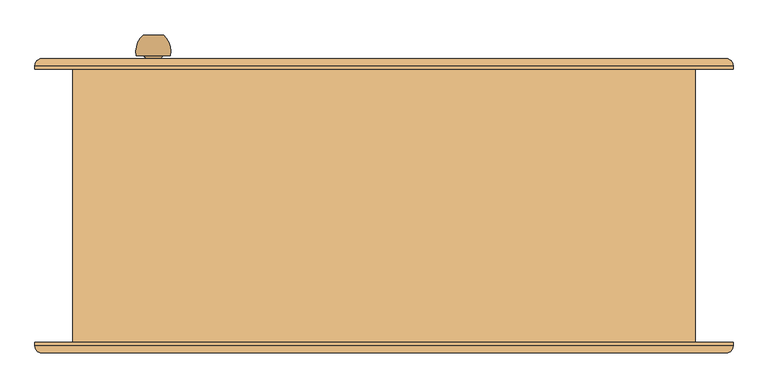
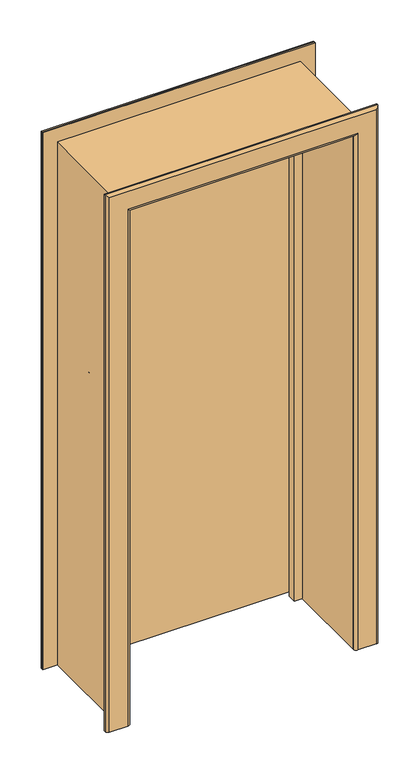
"""IFC4 building model written with IfcOpenShell, lengths in millimetres: door geometry, Внутренняя дверь 1-Навесная - 6629-88 : ДГ 21-9  ГОСТ 6629-88."""

from ifc_helpers import new_model, si_unit, point, frame, origin, place, context, project, spatial, polyline, circle_curve, ellipse_curve, trimmed, outline, extrude, faceted_brep, source, transform, mapped, element, save
from ifc_brep_helpers import plane_surface, cylinder_surface, revolved_surface, advanced_brep


def door_a652fb3b(model_context):
    return source(origin(), model_context, "Body", "SolidModel", [
        advanced_brep(
        [(-322.0, 250.0, 1100.0), (-337.0, 250.0, 1100.0), (-352.0, 250.0, 1100.0), (-362.0, 220.0, 1100.0), (-312.0, 220.0, 1100.0), (-355.0, 220.0, 1100.0), (-319.0, 220.0, 1100.0), (-347.0, 212.0, 1100.0), (-327.0, 212.0, 1100.0), (-347.0, 206.0, 1100.0), (-327.0, 206.0, 1100.0), (-367.0, 206.0, 1100.0), (-307.0, 206.0, 1100.0), (-367.0, 200.0, 1100.0), (-307.0, 200.0, 1100.0)],
        [
            (0, 1),
            (1, 2),
            (2, 0, circle_curve(frame((-337.0, 250.0, 1100.0), z_axis=(0.0, 1.0, 0.0), x_axis=(-1.0, 0.0, 0.0)), 15.0)),
            (0, 2, circle_curve(frame((-337.0, 250.0, 1100.0), z_axis=(0.0, 1.0, 0.0), x_axis=(-1.0, 0.0, 0.0)), 15.0)),
            (2, 3, circle_curve(frame((-327.3773735, 225.1257912, 1100.0), z_axis=(0.0, 0.0, 1.0), x_axis=(1.0, 0.0, 0.0)), 35.0)),
            (3, 4, circle_curve(frame((-337.0, 220.0, 1100.0), z_axis=(0.0, 1.0, 0.0), x_axis=(-1.0, 0.0, 0.0)), 25.0)),
            (4, 0, circle_curve(frame((-346.6226265, 225.1257912, 1100.0), z_axis=(0.0, 0.0, 1.0), x_axis=(-1.0, 0.0, 0.0)), 35.0)),
            (4, 3, circle_curve(frame((-337.0, 220.0, 1100.0), z_axis=(0.0, 1.0, 0.0), x_axis=(-1.0, 0.0, 0.0)), 25.0)),
            (3, 5),
            (5, 6, circle_curve(frame((-337.0, 220.0, 1100.0), z_axis=(0.0, 1.0, 0.0), x_axis=(-1.0, 0.0, 0.0)), 18.0)),
            (6, 4),
            (6, 5, circle_curve(frame((-337.0, 220.0, 1100.0), z_axis=(0.0, 1.0, 0.0), x_axis=(-1.0, 0.0, 0.0)), 18.0)),
            (5, 7, circle_curve(frame((-355.0, 212.0, 1100.0), z_axis=(0.0, 0.0, -1.0), x_axis=(1.0, 0.0, 0.0)), 8.0)),
            (7, 8, circle_curve(frame((-337.0, 212.0, 1100.0), z_axis=(0.0, 1.0, 0.0), x_axis=(-1.0, 0.0, 0.0)), 10.0)),
            (8, 6, circle_curve(frame((-319.0, 212.0, 1100.0), z_axis=(0.0, 0.0, -1.0), x_axis=(-1.0, 0.0, 0.0)), 8.0)),
            (8, 7, circle_curve(frame((-337.0, 212.0, 1100.0), z_axis=(0.0, 1.0, 0.0), x_axis=(-1.0, 0.0, 0.0)), 10.0)),
            (7, 9),
            (9, 10, circle_curve(frame((-337.0, 206.0, 1100.0), z_axis=(0.0, 1.0, 0.0), x_axis=(-1.0, 0.0, 0.0)), 10.0)),
            (10, 8),
            (10, 9, circle_curve(frame((-337.0, 206.0, 1100.0), z_axis=(0.0, 1.0, 0.0), x_axis=(-1.0, 0.0, 0.0)), 10.0)),
            (11, 12, circle_curve(frame((-337.0, 206.0, 1100.0), z_axis=(0.0, 1.0, 0.0), x_axis=(1.0, 0.0, 0.0)), 30.0)),
            (12, 11, circle_curve(frame((-337.0, 206.0, 1100.0), z_axis=(0.0, 1.0, 0.0), x_axis=(1.0, 0.0, 0.0)), 30.0)),
            (13, 14, circle_curve(frame((-337.0, 200.0, 1100.0), z_axis=(0.0, -1.0, 0.0), x_axis=(1.0, 0.0, 0.0)), 30.0)),
            (14, 13, circle_curve(frame((-337.0, 200.0, 1100.0), z_axis=(0.0, -1.0, 0.0), x_axis=(1.0, 0.0, 0.0)), 30.0)),
            (12, 14),
            (13, 11),
        ],
        [
            plane_surface(frame((-337.0, 250.0, 1100.0), z_axis=(0.0, 1.0, 0.0), x_axis=(-1.0, 0.0, 0.0))),
            revolved_surface(trimmed(ellipse_curve(frame((-327.3773735, 225.1257912, 1100.0), z_axis=(0.0, 0.0, 1.0), x_axis=(1.0, 0.0, 0.0)), 35.0, 35.0), [point((-352.0, 250.0, 1100.0))], [point((-362.0, 220.0, 1100.0))], True, "CARTESIAN"), (-337.0, 280.0, 1100.0), (0.0, -1.0, 0.0)),
            plane_surface(frame((-337.0, 220.0, 1100.0), z_axis=(0.0, -1.0, 0.0), x_axis=(-1.0, 0.0, 0.0))),
            revolved_surface(trimmed(ellipse_curve(frame((-355.0, 212.0, 1100.0), z_axis=(0.0, 0.0, -1.0), x_axis=(1.0, 0.0, 0.0)), 8.0, 8.0), [point((-355.0, 220.0, 1100.0))], [point((-347.0, 212.0, 1100.0))], True, "CARTESIAN"), (-337.0, 280.0, 1100.0), (0.0, -1.0, 0.0)),
            cylinder_surface(frame((-337.0, 280.0, 1100.0), z_axis=(0.0, -1.0, 0.0), x_axis=(-1.0, 0.0, 0.0)), 10.0),
            plane_surface(frame((-307.0, 206.0, 1100.0), z_axis=(0.0, 1.0, 0.0), x_axis=(0.0, 0.0, 1.0))),
            plane_surface(frame((-307.0, 200.0, 1100.0), z_axis=(0.0, -1.0, 0.0), x_axis=(0.0, 0.0, -1.0))),
            cylinder_surface(frame((-337.0, 200.0, 1100.0), z_axis=(0.0, 1.0, 0.0), x_axis=(1.0, 0.0, 0.0)), 30.0),
        ],
        [
            (0, [[1, 2, 3]]),
            (0, [[-1, 4, -2]]),
            (1, [[5, 6, 7, -3]]),
            (1, [[-7, 8, -5, -4]]),
            (2, [[9, 10, 11, -6]]),
            (2, [[-11, 12, -9, -8]]),
            (3, [[13, 14, 15, -10]]),
            (3, [[-15, 16, -13, -12]]),
            (4, [[17, 18, 19, -14]]),
            (4, [[-19, 20, -17, -16]]),
            (5, [[21, 22], [-20, -18]]),
            (6, [[23, 24]]),
            (7, [[25, -23, 26, -22]]),
            (7, [[-26, -24, -25, -21]]),
        ],
    ),
        advanced_brep(
        [(-352.0, 113.0, 1100.0), (-337.0, 113.0, 1100.0), (-322.0, 113.0, 1100.0), (-312.0, 143.0, 1100.0), (-362.0, 143.0, 1100.0), (-319.0, 143.0, 1100.0), (-355.0, 143.0, 1100.0), (-327.0, 151.0, 1100.0), (-347.0, 151.0, 1100.0), (-327.0, 157.0, 1100.0), (-347.0, 157.0, 1100.0), (-307.0, 157.0, 1100.0), (-367.0, 157.0, 1100.0), (-307.0, 163.0, 1100.0), (-367.0, 163.0, 1100.0)],
        [
            (0, 1),
            (1, 2),
            (2, 0, circle_curve(frame((-337.0, 113.0, 1100.0), z_axis=(0.0, -1.0, 0.0), x_axis=(1.0, 0.0, 0.0)), 15.0)),
            (0, 2, circle_curve(frame((-337.0, 113.0, 1100.0), z_axis=(0.0, -1.0, 0.0), x_axis=(1.0, 0.0, 0.0)), 15.0)),
            (2, 3, circle_curve(frame((-346.6226265, 137.8742088, 1100.0), z_axis=(0.0, 0.0, 1.0), x_axis=(-1.0, 0.0, 0.0)), 35.0)),
            (3, 4, circle_curve(frame((-337.0, 143.0, 1100.0), z_axis=(0.0, -1.0, 0.0), x_axis=(1.0, 0.0, 0.0)), 25.0)),
            (4, 0, circle_curve(frame((-327.3773735, 137.8742088, 1100.0), z_axis=(0.0, 0.0, 1.0), x_axis=(1.0, 0.0, 0.0)), 35.0)),
            (4, 3, circle_curve(frame((-337.0, 143.0, 1100.0), z_axis=(0.0, -1.0, 0.0), x_axis=(1.0, 0.0, 0.0)), 25.0)),
            (3, 5),
            (5, 6, circle_curve(frame((-337.0, 143.0, 1100.0), z_axis=(0.0, -1.0, 0.0), x_axis=(1.0, 0.0, 0.0)), 18.0)),
            (6, 4),
            (6, 5, circle_curve(frame((-337.0, 143.0, 1100.0), z_axis=(0.0, -1.0, 0.0), x_axis=(1.0, 0.0, 0.0)), 18.0)),
            (5, 7, circle_curve(frame((-319.0, 151.0, 1100.0), z_axis=(0.0, 0.0, -1.0), x_axis=(-1.0, 0.0, 0.0)), 8.0)),
            (7, 8, circle_curve(frame((-337.0, 151.0, 1100.0), z_axis=(0.0, -1.0, 0.0), x_axis=(1.0, 0.0, 0.0)), 10.0)),
            (8, 6, circle_curve(frame((-355.0, 151.0, 1100.0), z_axis=(0.0, 0.0, -1.0), x_axis=(1.0, 0.0, 0.0)), 8.0)),
            (8, 7, circle_curve(frame((-337.0, 151.0, 1100.0), z_axis=(0.0, -1.0, 0.0), x_axis=(1.0, 0.0, 0.0)), 10.0)),
            (7, 9),
            (9, 10, circle_curve(frame((-337.0, 157.0, 1100.0), z_axis=(0.0, -1.0, 0.0), x_axis=(1.0, 0.0, 0.0)), 10.0)),
            (10, 8),
            (10, 9, circle_curve(frame((-337.0, 157.0, 1100.0), z_axis=(0.0, -1.0, 0.0), x_axis=(1.0, 0.0, 0.0)), 10.0)),
            (11, 12, circle_curve(frame((-337.0, 157.0, 1100.0), z_axis=(0.0, -1.0, 0.0), x_axis=(-1.0, 0.0, 0.0)), 30.0)),
            (12, 11, circle_curve(frame((-337.0, 157.0, 1100.0), z_axis=(0.0, -1.0, 0.0), x_axis=(-1.0, 0.0, 0.0)), 30.0)),
            (13, 14, circle_curve(frame((-337.0, 163.0, 1100.0), z_axis=(0.0, 1.0, 0.0), x_axis=(-1.0, 0.0, 0.0)), 30.0)),
            (14, 13, circle_curve(frame((-337.0, 163.0, 1100.0), z_axis=(0.0, 1.0, 0.0), x_axis=(-1.0, 0.0, 0.0)), 30.0)),
            (12, 14),
            (13, 11),
        ],
        [
            plane_surface(frame((-337.0, 113.0, 1100.0), z_axis=(0.0, -1.0, 0.0), x_axis=(1.0, 0.0, 0.0))),
            revolved_surface(trimmed(ellipse_curve(frame((-346.6226265, 137.8742088, 1100.0), z_axis=(0.0, 0.0, 1.0), x_axis=(-1.0, 0.0, 0.0)), 35.0, 35.0), [point((-322.0, 113.0, 1100.0))], [point((-312.0, 143.0, 1100.0))], True, "CARTESIAN"), (-337.0, 83.0, 1100.0), (0.0, 1.0, 0.0)),
            plane_surface(frame((-337.0, 143.0, 1100.0), z_axis=(0.0, 1.0, 0.0), x_axis=(1.0, 0.0, 0.0))),
            revolved_surface(trimmed(ellipse_curve(frame((-319.0, 151.0, 1100.0), z_axis=(0.0, 0.0, -1.0), x_axis=(-1.0, 0.0, 0.0)), 8.0, 8.0), [point((-319.0, 143.0, 1100.0))], [point((-327.0, 151.0, 1100.0))], True, "CARTESIAN"), (-337.0, 83.0, 1100.0), (0.0, 1.0, 0.0)),
            cylinder_surface(frame((-337.0, 83.0, 1100.0), z_axis=(0.0, 1.0, 0.0), x_axis=(1.0, 0.0, 0.0)), 10.0),
            plane_surface(frame((-367.0, 157.0, 1100.0), z_axis=(0.0, -1.0, 0.0), x_axis=(0.0, 0.0, 1.0))),
            plane_surface(frame((-367.0, 163.0, 1100.0), z_axis=(0.0, 1.0, 0.0), x_axis=(0.0, 0.0, -1.0))),
            cylinder_surface(frame((-337.0, 163.0, 1100.0), z_axis=(0.0, -1.0, 0.0), x_axis=(-1.0, 0.0, 0.0)), 30.0),
        ],
        [
            (0, [[1, 2, 3]]),
            (0, [[-1, 4, -2]]),
            (1, [[5, 6, 7, -3]]),
            (1, [[-7, 8, -5, -4]]),
            (2, [[9, 10, 11, -6]]),
            (2, [[-11, 12, -9, -8]]),
            (3, [[13, 14, 15, -10]]),
            (3, [[-15, 16, -13, -12]]),
            (4, [[17, 18, 19, -14]]),
            (4, [[-19, 20, -17, -16]]),
            (5, [[21, 22], [-20, -18]]),
            (6, [[23, 24]]),
            (7, [[25, -23, 26, -22]]),
            (7, [[-26, -24, -25, -21]]),
        ],
    ),
        extrude(outline(polyline([(0.0, 435.0), (2050.0, 435.0), (2050.0, -435.0), (0.0, -435.0), (0.0, -420.0), (2035.0, -420.0), (2035.0, 420.0), (0.0, 420.0), (0.0, 435.0)])), frame((0.0, -200.0, 0.0), z_axis=(0.0, 1.0, 0.0), x_axis=(0.0, 0.0, 1.0)), (0.0, 0.0, 1.0), 326.0),
        advanced_brep(
        [(-510.0, 200.0, 0.0), (-510.0, 205.0, 0.0), (-500.0, 215.0, 0.0), (-430.0, 215.0, 0.0), (-420.0, 205.0, 0.0), (-420.0, 200.0, 0.0), (-420.0, 200.0, 2035.0), (420.0, 200.0, 2035.0), (420.0, 200.0, 0.0), (510.0, 200.0, 0.0), (510.0, 200.0, 2125.0), (-510.0, 200.0, 2125.0), (-420.0, 205.0, 2035.0), (-430.0, 215.0, 2045.0), (-500.0, 215.0, 2115.0), (500.0, 215.0, 2115.0), (500.0, 215.0, 0.0), (430.0, 215.0, 0.0), (430.0, 215.0, 2045.0), (-510.0, 205.0, 2125.0), (510.0, 205.0, 0.0), (510.0, 205.0, 2125.0), (420.0, 205.0, 0.0), (420.0, 205.0, 2035.0)],
        [
            (0, 1),
            (1, 2, circle_curve(frame((-500.0, 205.0, 0.0), z_axis=(0.0, 0.0, -1.0), x_axis=(-1.0, 0.0, 0.0)), 10.0)),
            (2, 3),
            (3, 4, circle_curve(frame((-430.0, 205.0, 0.0), z_axis=(0.0, 0.0, -1.0), x_axis=(-1.0, 0.0, 0.0)), 10.0)),
            (4, 5),
            (5, 0),
            (5, 6),
            (6, 7),
            (7, 8),
            (8, 9),
            (9, 10),
            (10, 11),
            (11, 0),
            (4, 12),
            (12, 6),
            (3, 13),
            (13, 12, ellipse_curve(frame((-430.0, 205.0, 2045.0), z_axis=(-0.7071067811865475, 0.0, -0.7071067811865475), x_axis=(0.7071067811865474, 0.0, -0.7071067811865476)), 14.1421356, 10.0)),
            (2, 14),
            (14, 15),
            (15, 16),
            (16, 17),
            (17, 18),
            (18, 13),
            (1, 19),
            (19, 14, ellipse_curve(frame((-500.0, 205.0, 2115.0), z_axis=(-0.7071067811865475, 0.0, -0.7071067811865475), x_axis=(0.7071067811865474, 0.0, -0.7071067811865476)), 14.1421356, 10.0)),
            (11, 19),
            (9, 20),
            (20, 21),
            (21, 10),
            (8, 22),
            (22, 17, circle_curve(frame((430.0, 205.0, 0.0), z_axis=(0.0, 0.0, -1.0), x_axis=(1.0, 0.0, 0.0)), 10.0)),
            (16, 20, circle_curve(frame((500.0, 205.0, 0.0), z_axis=(0.0, 0.0, -1.0), x_axis=(1.0, 0.0, 0.0)), 10.0)),
            (23, 22),
            (7, 23),
            (23, 18, ellipse_curve(frame((430.0, 205.0, 2045.0), z_axis=(0.7071067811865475, 0.0, -0.7071067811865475), x_axis=(0.7071067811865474, 0.0, 0.7071067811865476)), 14.1421356, 10.0)),
            (15, 21, ellipse_curve(frame((500.0, 205.0, 2115.0), z_axis=(0.7071067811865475, 0.0, -0.7071067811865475), x_axis=(0.7071067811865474, 0.0, 0.7071067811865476)), 14.1421356, 10.0)),
            (12, 23),
            (19, 21),
        ],
        [
            plane_surface(frame((-455.0, 200.0, 0.0), z_axis=(0.0, 0.0, -1.0), x_axis=(0.0, -1.0, 0.0))),
            plane_surface(frame((-510.0, 200.0, 0.0), z_axis=(0.0, -1.0, 0.0), x_axis=(0.0, 0.0, 1.0))),
            plane_surface(frame((-420.0, 200.0, 0.0), z_axis=(1.0, 0.0, 0.0), x_axis=(0.0, 0.0, 1.0))),
            cylinder_surface(frame((-430.0, 205.0, 0.0), z_axis=(0.0, 0.0, -1.0), x_axis=(-1.0, 0.0, 0.0)), 10.0),
            plane_surface(frame((-430.0, 215.0, 0.0), z_axis=(0.0, 1.0, 0.0), x_axis=(0.0, 0.0, 1.0))),
            cylinder_surface(frame((-500.0, 205.0, 0.0), z_axis=(0.0, 0.0, -1.0), x_axis=(-1.0, 0.0, 0.0)), 10.0),
            plane_surface(frame((-510.0, 205.0, 0.0), z_axis=(-1.0, 0.0, 0.0), x_axis=(0.0, 0.0, 1.0))),
            plane_surface(frame((510.0, 205.0, 2125.0), z_axis=(1.0, 0.0, 0.0), x_axis=(0.0, 0.0, -1.0))),
            plane_surface(frame((455.0, 200.0, 0.0), z_axis=(0.0, 0.0, -1.0), x_axis=(0.0, -1.0, 0.0))),
            plane_surface(frame((420.0, 200.0, 2035.0), z_axis=(-1.0, 0.0, 0.0), x_axis=(0.0, 0.0, -1.0))),
            cylinder_surface(frame((430.0, 205.0, 2070.0), z_axis=(0.0, 0.0, 1.0), x_axis=(1.0, 0.0, 0.0)), 10.0),
            cylinder_surface(frame((500.0, 205.0, 2070.0), z_axis=(0.0, 0.0, 1.0), x_axis=(1.0, 0.0, 0.0)), 10.0),
            plane_surface(frame((-420.0, 200.0, 2035.0), z_axis=(0.0, 0.0, -1.0), x_axis=(1.0, 0.0, 0.0))),
            cylinder_surface(frame((-455.0, 205.0, 2045.0), z_axis=(-1.0, 0.0, 0.0), x_axis=(0.0, 0.0, 1.0)), 10.0),
            cylinder_surface(frame((-455.0, 205.0, 2115.0), z_axis=(-1.0, 0.0, 0.0), x_axis=(0.0, 0.0, 1.0)), 10.0),
            plane_surface(frame((-510.0, 205.0, 2125.0), z_axis=(0.0, 0.0, 1.0), x_axis=(1.0, 0.0, 0.0))),
        ],
        [
            (0, [[1, 2, 3, 4, 5, 6]]),
            (1, [[7, 8, 9, 10, 11, 12, 13, -6]]),
            (2, [[14, 15, -7, -5]]),
            (3, [[16, 17, -14, -4]]),
            (4, [[18, 19, 20, 21, 22, 23, -16, -3]]),
            (5, [[24, 25, -18, -2]]),
            (6, [[-13, 26, -24, -1]]),
            (7, [[-11, 27, 28, 29]]),
            (8, [[-10, 30, 31, -21, 32, -27]]),
            (9, [[33, -30, -9, 34]]),
            (10, [[-22, -31, -33, 35]]),
            (11, [[-28, -32, -20, 36]]),
            (12, [[37, -34, -8, -15]]),
            (13, [[-23, -35, -37, -17]]),
            (14, [[38, -36, -19, -25]]),
            (15, [[-12, -29, -38, -26]]),
        ],
    ),
        advanced_brep(
        [(510.0, -200.0, 0.0), (510.0, -205.0, 0.0), (500.0, -215.0, 0.0), (430.0, -215.0, 0.0), (420.0, -205.0, 0.0), (420.0, -200.0, 0.0), (420.0, -200.0, 2035.0), (-420.0, -200.0, 2035.0), (-420.0, -200.0, 0.0), (-510.0, -200.0, 0.0), (-510.0, -200.0, 2125.0), (510.0, -200.0, 2125.0), (420.0, -205.0, 2035.0), (430.0, -215.0, 2045.0), (500.0, -215.0, 2115.0), (-500.0, -215.0, 2115.0), (-500.0, -215.0, 0.0), (-430.0, -215.0, 0.0), (-430.0, -215.0, 2045.0), (510.0, -205.0, 2125.0), (-510.0, -205.0, 0.0), (-510.0, -205.0, 2125.0), (-420.0, -205.0, 0.0), (-420.0, -205.0, 2035.0)],
        [
            (0, 1),
            (1, 2, circle_curve(frame((500.0, -205.0, 0.0), z_axis=(0.0, 0.0, -1.0), x_axis=(1.0, 0.0, 0.0)), 10.0)),
            (2, 3),
            (3, 4, circle_curve(frame((430.0, -205.0, 0.0), z_axis=(0.0, 0.0, -1.0), x_axis=(1.0, 0.0, 0.0)), 10.0)),
            (4, 5),
            (5, 0),
            (5, 6),
            (6, 7),
            (7, 8),
            (8, 9),
            (9, 10),
            (10, 11),
            (11, 0),
            (4, 12),
            (12, 6),
            (3, 13),
            (13, 12, ellipse_curve(frame((430.0, -205.0, 2045.0), z_axis=(0.7071067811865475, 0.0, -0.7071067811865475), x_axis=(-0.7071067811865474, 0.0, -0.7071067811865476)), 14.1421356, 10.0)),
            (2, 14),
            (14, 15),
            (15, 16),
            (16, 17),
            (17, 18),
            (18, 13),
            (1, 19),
            (19, 14, ellipse_curve(frame((500.0, -205.0, 2115.0), z_axis=(0.7071067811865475, 0.0, -0.7071067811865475), x_axis=(-0.7071067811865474, 0.0, -0.7071067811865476)), 14.1421356, 10.0)),
            (11, 19),
            (9, 20),
            (20, 21),
            (21, 10),
            (8, 22),
            (22, 17, circle_curve(frame((-430.0, -205.0, 0.0), z_axis=(0.0, 0.0, -1.0), x_axis=(-1.0, 0.0, 0.0)), 10.0)),
            (16, 20, circle_curve(frame((-500.0, -205.0, 0.0), z_axis=(0.0, 0.0, -1.0), x_axis=(-1.0, 0.0, 0.0)), 10.0)),
            (23, 22),
            (7, 23),
            (23, 18, ellipse_curve(frame((-430.0, -205.0, 2045.0), z_axis=(-0.7071067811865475, 0.0, -0.7071067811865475), x_axis=(-0.7071067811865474, 0.0, 0.7071067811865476)), 14.1421356, 10.0)),
            (15, 21, ellipse_curve(frame((-500.0, -205.0, 2115.0), z_axis=(-0.7071067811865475, 0.0, -0.7071067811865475), x_axis=(-0.7071067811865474, 0.0, 0.7071067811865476)), 14.1421356, 10.0)),
            (12, 23),
            (19, 21),
        ],
        [
            plane_surface(frame((455.0, -200.0, 0.0), z_axis=(0.0, 0.0, -1.0), x_axis=(0.0, 1.0, 0.0))),
            plane_surface(frame((510.0, -200.0, 0.0), z_axis=(0.0, 1.0, 0.0), x_axis=(0.0, 0.0, 1.0))),
            plane_surface(frame((420.0, -200.0, 0.0), z_axis=(-1.0, 0.0, 0.0), x_axis=(0.0, 0.0, 1.0))),
            cylinder_surface(frame((430.0, -205.0, 0.0), z_axis=(0.0, 0.0, -1.0), x_axis=(1.0, 0.0, 0.0)), 10.0),
            plane_surface(frame((430.0, -215.0, 0.0), z_axis=(0.0, -1.0, 0.0), x_axis=(0.0, 0.0, 1.0))),
            cylinder_surface(frame((500.0, -205.0, 0.0), z_axis=(0.0, 0.0, -1.0), x_axis=(1.0, 0.0, 0.0)), 10.0),
            plane_surface(frame((510.0, -205.0, 0.0), z_axis=(1.0, 0.0, 0.0), x_axis=(0.0, 0.0, 1.0))),
            plane_surface(frame((-510.0, -205.0, 2125.0), z_axis=(-1.0, 0.0, 0.0), x_axis=(0.0, 0.0, -1.0))),
            plane_surface(frame((-455.0, -200.0, 0.0), z_axis=(0.0, 0.0, -1.0), x_axis=(0.0, 1.0, 0.0))),
            plane_surface(frame((-420.0, -200.0, 2035.0), z_axis=(1.0, 0.0, 0.0), x_axis=(0.0, 0.0, -1.0))),
            cylinder_surface(frame((-430.0, -205.0, 2070.0), z_axis=(0.0, 0.0, 1.0), x_axis=(-1.0, 0.0, 0.0)), 10.0),
            cylinder_surface(frame((-500.0, -205.0, 2070.0), z_axis=(0.0, 0.0, 1.0), x_axis=(-1.0, 0.0, 0.0)), 10.0),
            plane_surface(frame((420.0, -200.0, 2035.0), z_axis=(0.0, 0.0, -1.0), x_axis=(-1.0, 0.0, 0.0))),
            cylinder_surface(frame((455.0, -205.0, 2045.0), z_axis=(1.0, 0.0, 0.0), x_axis=(0.0, 0.0, 1.0)), 10.0),
            cylinder_surface(frame((455.0, -205.0, 2115.0), z_axis=(1.0, 0.0, 0.0), x_axis=(0.0, 0.0, 1.0)), 10.0),
            plane_surface(frame((510.0, -205.0, 2125.0), z_axis=(0.0, 0.0, 1.0), x_axis=(-1.0, 0.0, 0.0))),
        ],
        [
            (0, [[1, 2, 3, 4, 5, 6]]),
            (1, [[7, 8, 9, 10, 11, 12, 13, -6]]),
            (2, [[14, 15, -7, -5]]),
            (3, [[16, 17, -14, -4]]),
            (4, [[18, 19, 20, 21, 22, 23, -16, -3]]),
            (5, [[24, 25, -18, -2]]),
            (6, [[-13, 26, -24, -1]]),
            (7, [[-11, 27, 28, 29]]),
            (8, [[-10, 30, 31, -21, 32, -27]]),
            (9, [[33, -30, -9, 34]]),
            (10, [[-22, -31, -33, 35]]),
            (11, [[-28, -32, -20, 36]]),
            (12, [[37, -34, -8, -15]]),
            (13, [[-23, -35, -37, -17]]),
            (14, [[38, -36, -19, -25]]),
            (15, [[-12, -29, -38, -26]]),
        ],
    ),
        faceted_brep([(390.0, 126.0, 0.0), (390.0, 158.0, 0.0), (402.0, 158.0, 0.0), (402.0, 200.0, 0.0), (435.0, 200.0, 0.0), (435.0, 126.0, 0.0), (435.0, 126.0, 2050.0), (-435.0, 126.0, 2050.0), (-435.0, 126.0, 0.0), (-390.0, 126.0, 0.0), (-390.0, 126.0, 2005.0), (390.0, 126.0, 2005.0), (435.0, 200.0, 2050.0), (402.0, 200.0, 2017.0), (-402.0, 200.0, 2017.0), (-402.0, 200.0, 0.0), (-435.0, 200.0, 0.0), (-435.0, 200.0, 2050.0), (402.0, 158.0, 2017.0), (390.0, 158.0, 2005.0), (-390.0, 158.0, 2005.0), (-390.0, 158.0, 0.0), (-402.0, 158.0, 0.0), (-402.0, 158.0, 2017.0)], [[[0, 1, 2, 3, 4, 5]], [[5, 6, 7, 8, 9, 10, 11, 0]], [[4, 12, 6, 5]], [[3, 13, 14, 15, 16, 17, 12, 4]], [[2, 18, 13, 3]], [[1, 19, 20, 21, 22, 23, 18, 2]], [[0, 11, 19, 1]], [[10, 9, 21, 20]], [[9, 8, 16, 15, 22, 21]], [[17, 16, 8, 7]], [[23, 22, 15, 14]], [[12, 17, 7, 6]], [[18, 23, 14, 13]], [[11, 10, 20, 19]]]),
        extrude(outline(polyline([(0.0, 455.0), (2070.0, 455.0), (2070.0, -455.0), (0.0, -455.0), (0.0, -435.0), (2050.0, -435.0), (2050.0, 435.0), (0.0, 435.0), (0.0, 455.0)])), frame((0.0, -200.0, 0.0), z_axis=(0.0, 1.0, 0.0), x_axis=(0.0, 0.0, 1.0)), (0.0, 0.0, 1.0), 400.0),
        extrude(outline(polyline([(397.0, 163.0), (-397.0, 163.0), (-397.0, 200.0), (397.0, 200.0), (397.0, 163.0)])), frame((0.0, 0.0, 15.0), z_axis=(0.0, 0.0, 1.0), x_axis=(1.0, 0.0, 0.0)), (0.0, 0.0, 1.0), 1997.0),
    ])


if __name__ == "__main__":
    model = new_model("IFC4")
    model_context = context("Model", 3, world=origin())
    ifc_project = project(units=[si_unit("LENGTHUNIT", "METRE", prefix="MILLI")], contexts=[model_context])
    site = spatial("IfcSite", under=ifc_project)
    building = spatial("IfcBuilding", under=site)
    placement = place(None, origin())
    door_shape = door_a652fb3b(model_context)
    element("IfcDoor", 1, ObjectType="Внутренняя дверь 1-Навесная - 6629-88 : ДГ 21-9  ГОСТ 6629-88", at=placement, inside=building, context=model_context, shape_type="MappedRepresentation", body=[
        mapped(door_shape, transform((0.0, 0.0, 0.0), x_axis=(1.0, 0.0, 0.0), y_axis=(0.0, 1.0, 0.0), z_axis=(0.0, 0.0, 1.0))),
    ])
    save(model, "model.ifc")
